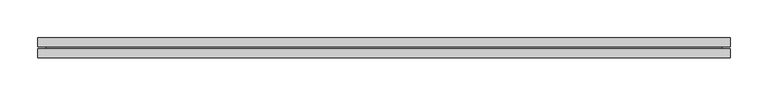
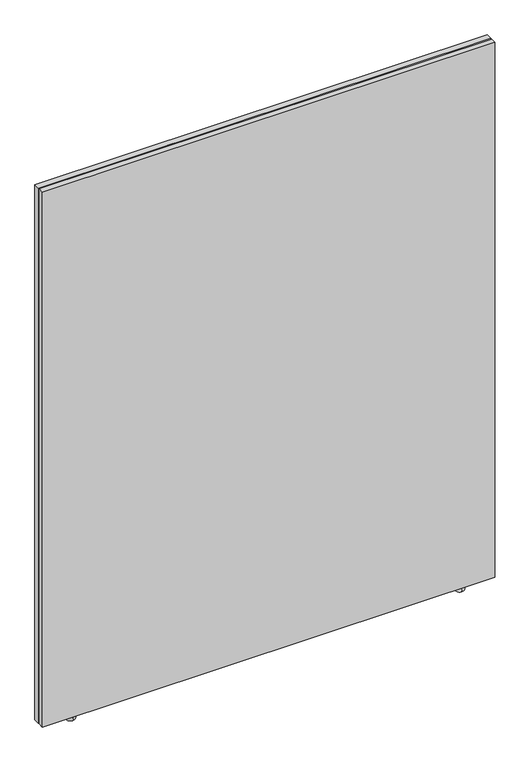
"""IFC4 building model written with IfcOpenShell, lengths in millimetres: furniture geometry, Geiger_GeigerOneCasegoods_WallFrameStandardApplication : 36Wx1Dx45H."""

from ifc_helpers import new_model, si_unit, point, frame, origin, place, context, project, spatial, circle_curve, ellipse_curve, trimmed, faceted_brep, source, transform, mapped, element, save
from ifc_brep_helpers import plane_surface, cylinder_surface, revolved_surface, advanced_brep


def furniture_ddc98a45(model_context):
    return source(origin(), model_context, "Body", "SolidModel", [
        faceted_brep([(914.4, -26.0, 12.7), (914.4, -26.0, 1155.7), (0.0, -26.0, 1155.7), (0.0, -26.0, 12.7), (914.4, 0.0, 1155.7), (914.4, 0.0, 12.7), (0.0, 0.0, 12.7), (0.0, 0.0, 1155.7), (914.4, -14.5, 1155.7), (914.4, -14.5, 12.7), (903.4, -11.5, 1144.7), (903.4, -14.5, 1144.7), (903.4, -14.5, 23.7), (903.4, -11.5, 23.7), (914.4, -11.5, 1155.7), (914.4, -11.5, 12.7), (0.0, -14.5, 12.7), (11.0, -14.5, 23.7), (11.0, -11.5, 23.7), (0.0, -11.5, 12.7), (0.0, -14.5, 1155.7), (11.0, -14.5, 1144.7), (11.0, -11.5, 1144.7), (0.0, -11.5, 1155.7)], [[[0, 1, 2, 3]], [[4, 5, 6, 7]], [[8, 1, 0, 9]], [[10, 11, 12, 13]], [[4, 14, 15, 5]], [[9, 0, 3, 16]], [[13, 12, 17, 18]], [[5, 15, 19, 6]], [[16, 3, 2, 20]], [[18, 17, 21, 22]], [[6, 19, 23, 7]], [[1, 8, 20, 2]], [[8, 9, 16, 20], [12, 11, 21, 17]], [[11, 10, 22, 21]], [[15, 14, 23, 19], [10, 13, 18, 22]], [[14, 4, 7, 23]]]),
        advanced_brep(
        [(850.4, -13.0, 0.0), (850.4, -8.2612423, 0.0), (850.4, -17.7387577, 0.0), (850.4, -7.1362597, 9.4), (850.4, -18.8637403, 9.4), (850.4, -5.75, 9.4), (850.4, -20.25, 9.4), (850.4, -5.75, 12.7), (850.4, -20.25, 12.7), (850.4, -13.0, 12.7)],
        [
            (0, 1),
            (1, 2, circle_curve(frame((850.4, -13.0, 0.0), z_axis=(0.0, 0.0, -1.0), x_axis=(0.0, 1.0, 0.0)), 4.7387577)),
            (2, 0),
            (2, 1, circle_curve(frame((850.4, -13.0, 0.0), z_axis=(0.0, 0.0, -1.0), x_axis=(0.0, 1.0, 0.0)), 4.7387577)),
            (1, 3, circle_curve(frame((850.4, -8.2612423, 4.7673184), z_axis=(1.0, 0.0, 0.0), x_axis=(0.0, 1.0, 0.0)), 4.7673184)),
            (3, 4, circle_curve(frame((850.4, -13.0, 9.4), z_axis=(0.0, 0.0, -1.0), x_axis=(0.0, 1.0, 0.0)), 5.8637403)),
            (4, 2, circle_curve(frame((850.4, -17.7387577, 4.7673184), z_axis=(1.0, 0.0, 0.0), x_axis=(0.0, -1.0, 0.0)), 4.7673184)),
            (4, 3, circle_curve(frame((850.4, -13.0, 9.4), z_axis=(0.0, 0.0, -1.0), x_axis=(0.0, 1.0, 0.0)), 5.8637403)),
            (3, 5),
            (5, 6, circle_curve(frame((850.4, -13.0, 9.4), z_axis=(0.0, 0.0, -1.0), x_axis=(0.0, 1.0, 0.0)), 7.25)),
            (6, 4),
            (6, 5, circle_curve(frame((850.4, -13.0, 9.4), z_axis=(0.0, 0.0, -1.0), x_axis=(0.0, 1.0, 0.0)), 7.25)),
            (5, 7),
            (7, 8, circle_curve(frame((850.4, -13.0, 12.7), z_axis=(0.0, 0.0, -1.0), x_axis=(0.0, 1.0, 0.0)), 7.25)),
            (8, 6),
            (8, 7, circle_curve(frame((850.4, -13.0, 12.7), z_axis=(0.0, 0.0, -1.0), x_axis=(0.0, 1.0, 0.0)), 7.25)),
            (7, 9),
            (9, 8),
        ],
        [
            plane_surface(frame((850.4, -13.0, 0.0), z_axis=(0.0, 0.0, -1.0), x_axis=(0.0, 1.0, 0.0))),
            revolved_surface(trimmed(ellipse_curve(frame((850.4, -8.2612423, 4.7673184), z_axis=(-1.0, 0.0, 0.0), x_axis=(0.0, 1.0, 0.0)), 4.7673184, 4.7673184), [point((850.4, -7.1362597, 9.4))], [point((850.4, -8.2612423, 0.0))], True, "CARTESIAN"), (850.4, -13.0, 0.0), (0.0, 0.0, -1.0)),
            plane_surface(frame((850.4, -13.0, 9.4), z_axis=(0.0, 0.0, -1.0), x_axis=(0.0, 1.0, 0.0))),
            cylinder_surface(frame((850.4, -13.0, 0.0), z_axis=(0.0, 0.0, -1.0), x_axis=(0.0, 1.0, 0.0)), 7.25),
            plane_surface(frame((850.4, -13.0, 12.7), z_axis=(0.0, 0.0, 1.0), x_axis=(0.0, 1.0, 0.0))),
        ],
        [
            (0, [[1, 2, 3]]),
            (0, [[-3, 4, -1]]),
            (1, [[-2, 5, 6, 7]]),
            (1, [[-4, -7, 8, -5]]),
            (2, [[-6, 9, 10, 11]]),
            (2, [[-8, -11, 12, -9]]),
            (3, [[-10, 13, 14, 15]]),
            (3, [[-12, -15, 16, -13]]),
            (4, [[-14, 17, 18]]),
            (4, [[-16, -18, -17]]),
        ],
    ),
        advanced_brep(
        [(64.0, -17.7387577, 0.0), (64.0, -8.2612423, 0.0), (64.0, -13.0, 0.0), (64.0, -18.8637403, 9.4), (64.0, -7.1362597, 9.4), (64.0, -20.25, 9.4), (64.0, -5.75, 9.4), (64.0, -20.25, 12.7), (64.0, -5.75, 12.7), (64.0, -13.0, 12.7)],
        [
            (0, 1, circle_curve(frame((64.0, -13.0, 0.0), z_axis=(0.0, 0.0, -1.0), x_axis=(0.0, 1.0, 0.0)), 4.7387577)),
            (1, 2),
            (2, 0),
            (1, 0, circle_curve(frame((64.0, -13.0, 0.0), z_axis=(0.0, 0.0, -1.0), x_axis=(0.0, 1.0, 0.0)), 4.7387577)),
            (3, 4, circle_curve(frame((64.0, -13.0, 9.4), z_axis=(0.0, 0.0, -1.0), x_axis=(0.0, 1.0, 0.0)), 5.8637403)),
            (4, 1, circle_curve(frame((64.0, -8.2612423, 4.7673184), z_axis=(-1.0, 0.0, 0.0), x_axis=(0.0, 1.0, 0.0)), 4.7673184)),
            (0, 3, circle_curve(frame((64.0, -17.7387577, 4.7673184), z_axis=(-1.0, 0.0, 0.0), x_axis=(0.0, -1.0, 0.0)), 4.7673184)),
            (4, 3, circle_curve(frame((64.0, -13.0, 9.4), z_axis=(0.0, 0.0, -1.0), x_axis=(0.0, 1.0, 0.0)), 5.8637403)),
            (5, 6, circle_curve(frame((64.0, -13.0, 9.4), z_axis=(0.0, 0.0, -1.0), x_axis=(0.0, 1.0, 0.0)), 7.25)),
            (6, 4),
            (3, 5),
            (6, 5, circle_curve(frame((64.0, -13.0, 9.4), z_axis=(0.0, 0.0, -1.0), x_axis=(0.0, 1.0, 0.0)), 7.25)),
            (7, 8, circle_curve(frame((64.0, -13.0, 12.7), z_axis=(0.0, 0.0, -1.0), x_axis=(0.0, 1.0, 0.0)), 7.25)),
            (8, 6),
            (5, 7),
            (8, 7, circle_curve(frame((64.0, -13.0, 12.7), z_axis=(0.0, 0.0, -1.0), x_axis=(0.0, 1.0, 0.0)), 7.25)),
            (9, 8),
            (7, 9),
        ],
        [
            plane_surface(frame((64.0, -13.0, 0.0), z_axis=(0.0, 0.0, -1.0), x_axis=(0.0, 1.0, 0.0))),
            revolved_surface(trimmed(ellipse_curve(frame((64.0, -8.2612423, 4.7673184), z_axis=(1.0, 0.0, 0.0), x_axis=(0.0, 1.0, 0.0)), 4.7673184, 4.7673184), [point((64.0, -8.2612423, 0.0))], [point((64.0, -7.1362597, 9.4))], True, "CARTESIAN"), (64.0, -13.0, 0.0), (0.0, 0.0, 1.0)),
            plane_surface(frame((64.0, -13.0, 9.4), z_axis=(0.0, 0.0, -1.0), x_axis=(0.0, 1.0, 0.0))),
            cylinder_surface(frame((64.0, -13.0, 0.0), z_axis=(0.0, 0.0, 1.0), x_axis=(0.0, 1.0, 0.0)), 7.25),
            plane_surface(frame((64.0, -13.0, 12.7), z_axis=(0.0, 0.0, 1.0), x_axis=(0.0, 1.0, 0.0))),
        ],
        [
            (0, [[1, 2, 3]]),
            (0, [[4, -3, -2]]),
            (1, [[5, 6, -1, 7]]),
            (1, [[8, -7, -4, -6]]),
            (2, [[9, 10, -5, 11]]),
            (2, [[12, -11, -8, -10]]),
            (3, [[13, 14, -9, 15]]),
            (3, [[16, -15, -12, -14]]),
            (4, [[17, -13, 18]]),
            (4, [[-18, -16, -17]]),
        ],
    ),
    ])


if __name__ == "__main__":
    model = new_model("IFC4")
    model_context = context("Model", 3, world=origin())
    ifc_project = project(units=[si_unit("LENGTHUNIT", "METRE", prefix="MILLI")], contexts=[model_context])
    site = spatial("IfcSite", under=ifc_project)
    building = spatial("IfcBuilding", under=site)
    placement = place(None, origin())
    furniture_shape = furniture_ddc98a45(model_context)
    element("IfcFurniture", 1, ObjectType="Geiger_GeigerOneCasegoods_WallFrameStandardApplication : 36Wx1Dx45H", at=placement, inside=building, context=model_context, shape_type="MappedRepresentation", body=[
        mapped(furniture_shape, transform((0.0, 0.0, 0.0), x_axis=(1.0, 0.0, 0.0), y_axis=(0.0, 1.0, 0.0), z_axis=(0.0, 0.0, 1.0))),
    ])
    save(model, "model.ifc")
